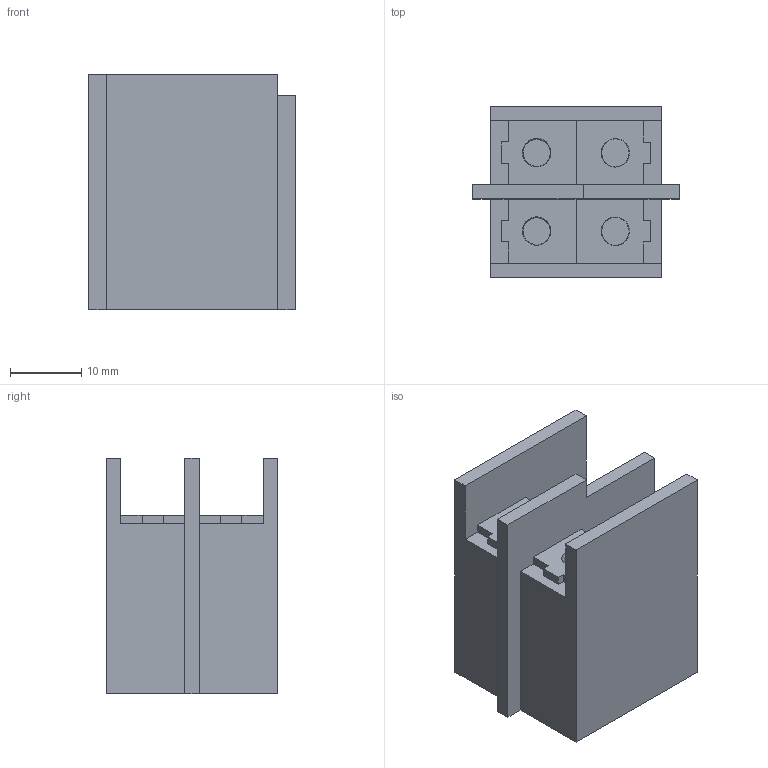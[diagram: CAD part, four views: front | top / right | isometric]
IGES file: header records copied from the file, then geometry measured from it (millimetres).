
Start section:  PTC IGES file: j4-22k-te2.igs
Global section: file name: j4-22k-te2.igs; native system: Pro/ENGINEER by Parametric Technology Corporation; preprocessor: 2010160; author: JE18792; organization: Unknown; date: 20121101.153745; units: millimetre
Bounding box: 29 x 24 x 33 mm (x, y, z)
Volume: 12311.2 mm3; surface area: 6482.8 mm2
Topology: 1 solids, 1 shells, 60 faces, 162 edges, 108 vertices
Faces by surface type: bspline 60
